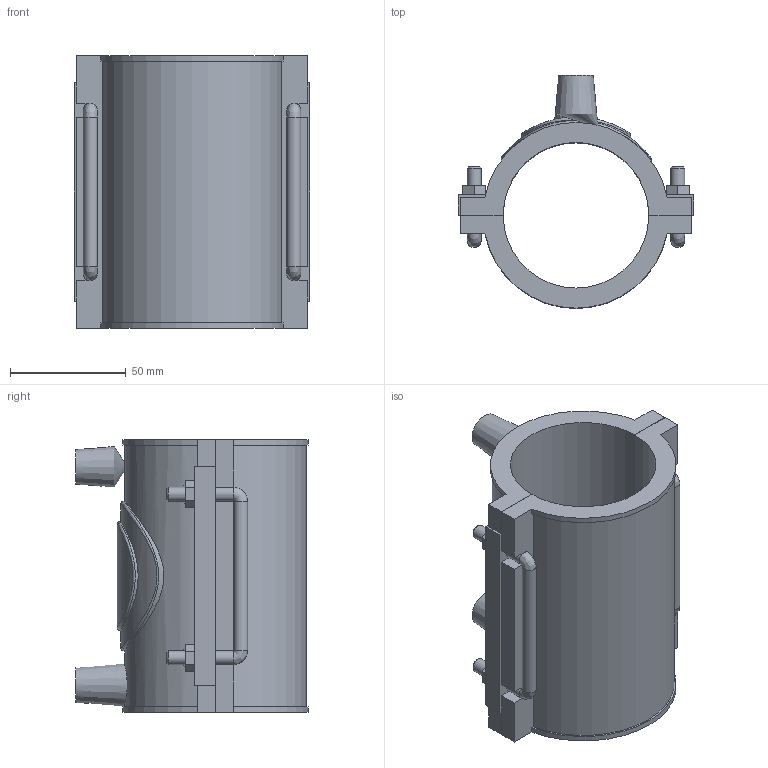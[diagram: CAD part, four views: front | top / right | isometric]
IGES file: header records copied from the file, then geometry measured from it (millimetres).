
Global section: file name: 495204063.ipt; native system: Autodesk Inventor 2015; preprocessor: unknown; author: KIM; date: 20171106.094225; units: millimetre
Bounding box: 102 x 100.66 x 118 mm (x, y, z)
Volume: 262968.1 mm3; surface area: 80025.8 mm2
Topology: 1 solids, 2 shells, 131 faces, 333 edges, 209 vertices
Faces by surface type: plane 84, cylinder 23, bspline 10, revolution 8, cone 6
Full cylindrical faces by diameter (mm): 4 x2, 6 x10, 47.2 x1, 64.9 x1
